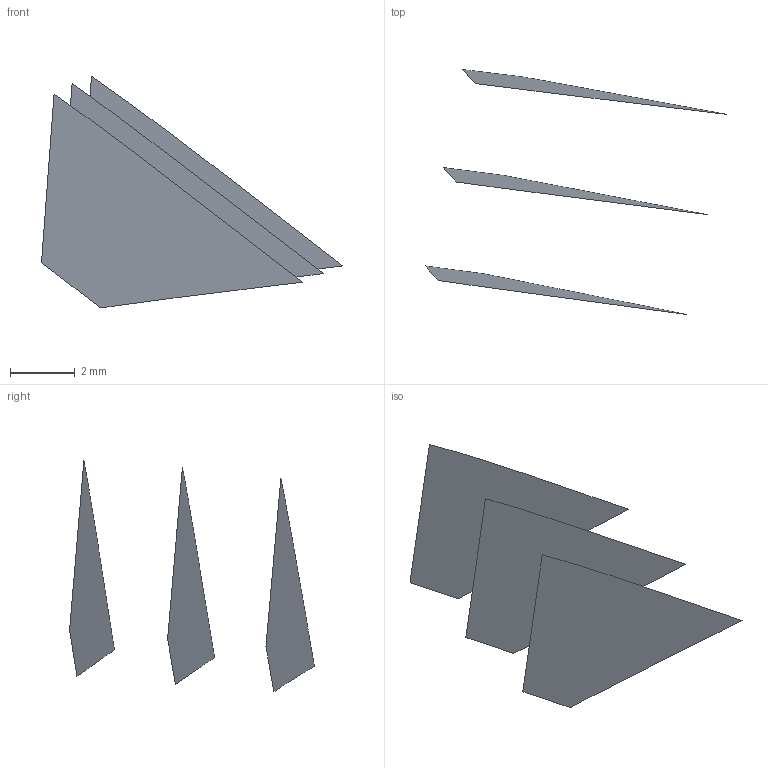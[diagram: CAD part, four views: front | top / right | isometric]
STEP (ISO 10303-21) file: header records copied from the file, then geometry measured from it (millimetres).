
FILE_DESCRIPTION(('FreeCAD Model'),'2;1');
FILE_NAME('Open CASCADE Shape Model','2022-05-22T07:50:26',('FreeCAD'),( 'FreeCAD'),'Open CASCADE STEP processor 7.5','FreeCAD','Unknown');
FILE_SCHEMA(('AUTOMOTIVE_DESIGN { 1 0 10303 214 1 1 1 1 }'));
Length unit declared in the file: millimetre
Products named in the file (4): Open CASCADE STEP translator 7.5 40; Open CASCADE STEP translator 7.5 40.1; Open CASCADE STEP translator 7.5 40.2; Open CASCADE STEP translator 7.5 40.3
Assembly tree (3 placements, depth 2):
  Open CASCADE STEP translator 7.5 40
    Open CASCADE STEP translator 7.5 40.1
    Open CASCADE STEP translator 7.5 40.2
    Open CASCADE STEP translator 7.5 40.3
Bounding box: 9.32 x 7.58 x 7.17 mm (x, y, z)
Surface area: 82.7 mm2 (no closed solid volume)
Topology: 0 solids, 3 shells, 3 faces, 36 edges, 36 vertices
Faces by surface type: bspline 3
Entity records: 568 total; most frequent: CARTESIAN_POINT 196, B_SPLINE_CURVE_WITH_KNOTS 72, ORIENTED_EDGE 36, EDGE_CURVE 36, VERTEX_POINT 36, SURFACE_CURVE 36, PCURVE 36, DEFINITIONAL_REPRESENTATION 36
